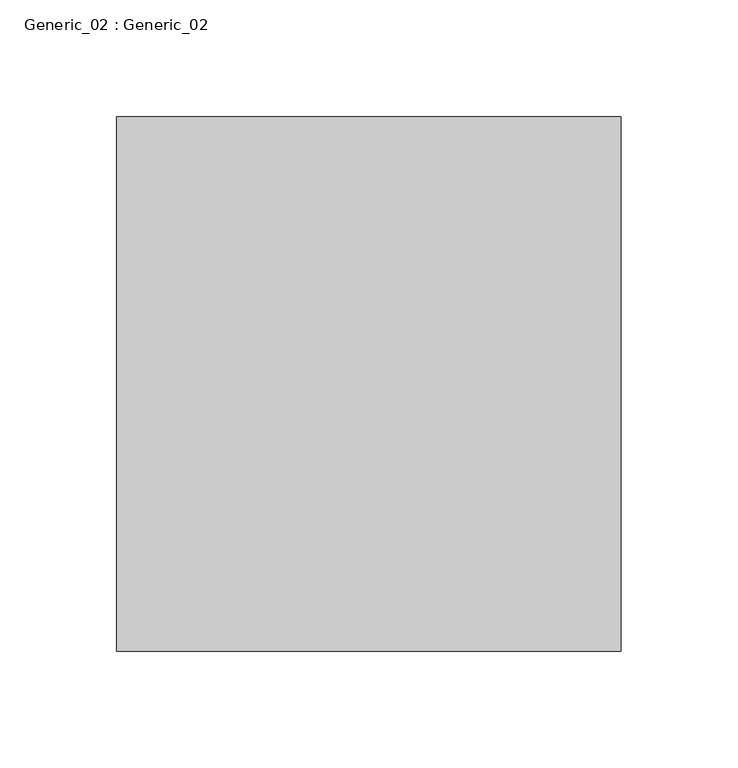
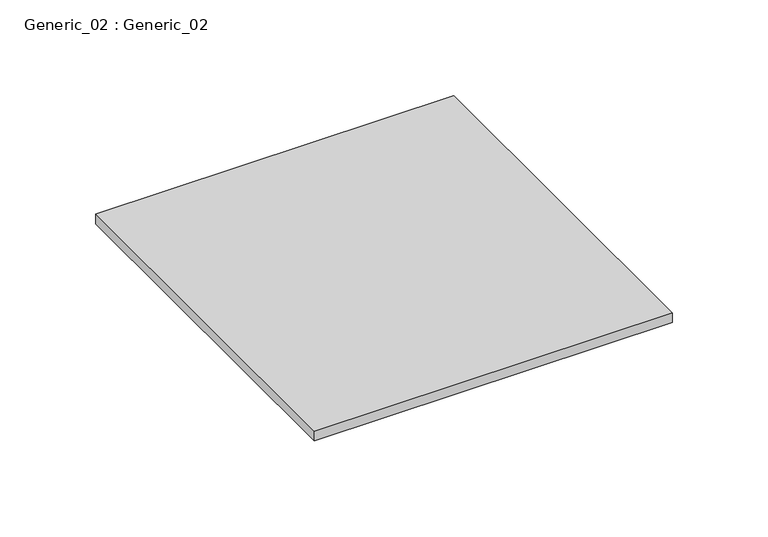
"""IFC4 building model written with IfcOpenShell, lengths in millimetres: proxy geometry, Generic_02 : Generic_02."""

from ifc_helpers import new_model, si_unit, frame, origin, place, context, project, spatial, polyline, outline, extrude, source, transform, mapped, element, save


def generic_02_generic_02_cc76fdf7(model_context):
    return source(origin(), model_context, "Body", "SweptSolid", [
        extrude(outline(polyline([(215.9, -228.6), (0.0, -228.6), (0.0, 0.0), (215.9, 0.0), (215.9, -228.6)])), frame((0.0, 0.0, -6.35), z_axis=(0.0, 0.0, 1.0), x_axis=(1.0, 0.0, 0.0)), (0.0, 0.0, 1.0), 6.35),
    ])


if __name__ == "__main__":
    model = new_model("IFC4")
    model_context = context("Model", 3, world=origin())
    ifc_project = project(units=[si_unit("LENGTHUNIT", "METRE", prefix="MILLI")], contexts=[model_context])
    site = spatial("IfcSite", under=ifc_project)
    building = spatial("IfcBuilding", under=site)
    placement = place(None, origin())
    generic_02_generic_02_shape = generic_02_generic_02_cc76fdf7(model_context)
    element("IfcBuildingElementProxy", 1, Name="Generic_02 : Generic_02", ObjectType="Generic_02 : Generic_02", at=placement, inside=building, context=model_context, shape_type="MappedRepresentation", body=[
        mapped(generic_02_generic_02_shape, transform((0.0, 0.0, 0.0), x_axis=(1.0, 0.0, 0.0), y_axis=(0.0, 1.0, 0.0), z_axis=(0.0, 0.0, 1.0))),
    ])
    save(model, "model.ifc")
